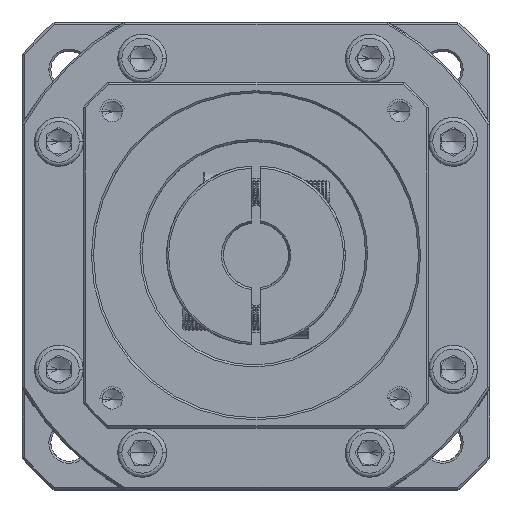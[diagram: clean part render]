
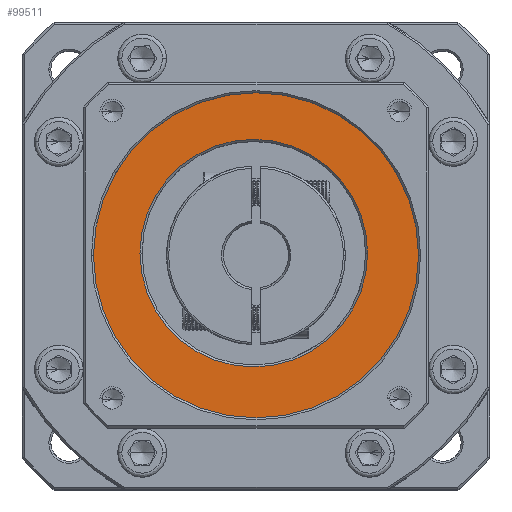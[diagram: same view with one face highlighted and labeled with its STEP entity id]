
A CAD part, top view. The second image highlights one B-rep face of the part: STEP entity #99511.
In plain terms, the highlighted planar face has unit normal (0, 0, 1).
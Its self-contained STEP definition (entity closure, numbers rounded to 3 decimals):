
#1744 = DIRECTION ( 'NONE',  ( 0., 0., 1. ) ) ;
#2572 = VERTEX_POINT ( 'NONE', #101123 ) ;
#6400 = CIRCLE ( 'NONE', #49652, 28. ) ;
#13382 = AXIS2_PLACEMENT_3D ( 'NONE', #103969, #48068, #113323 ) ;
#15622 = CARTESIAN_POINT ( 'NONE',  ( 97.945, -51.453, -19.608 ) ) ;
#20038 = AXIS2_PLACEMENT_3D ( 'NONE', #90966, #35045, #100334 ) ;
#20071 = PLANE ( 'NONE',  #117834 ) ;
#21741 = CIRCLE ( 'NONE', #20038, 28. ) ;
#22172 = EDGE_LOOP ( 'NONE', ( #103812, #54162 ) ) ;
#22831 = AXIS2_PLACEMENT_3D ( 'NONE', #82123, #26191, #91567 ) ;
#23267 = VERTEX_POINT ( 'NONE', #28051 ) ;
#26191 = DIRECTION ( 'NONE',  ( 0., 0., 1. ) ) ;
#28051 = CARTESIAN_POINT ( 'NONE',  ( 85.404, -50.919, -19.608 ) ) ;
#30779 = CIRCLE ( 'NONE', #13382, 40. ) ;
#32210 = CARTESIAN_POINT ( 'NONE',  ( 57.404, -50.919, -19.608 ) ) ;
#35045 = DIRECTION ( 'NONE',  ( 0., 0., -1. ) ) ;
#37208 = CIRCLE ( 'NONE', #22831, 40. ) ;
#41631 = DIRECTION ( 'NONE',  ( 1., 0., 0. ) ) ;
#41839 = ORIENTED_EDGE ( 'NONE', *, *, #104842, .T. ) ;
#43744 = VERTEX_POINT ( 'NONE', #15622 ) ;
#44086 = VERTEX_POINT ( 'NONE', #117149 ) ;
#45409 = EDGE_CURVE ( 'NONE', #23267, #2572, #21741, .T. ) ;
#48068 = DIRECTION ( 'NONE',  ( 0., 0., 1. ) ) ;
#49652 = AXIS2_PLACEMENT_3D ( 'NONE', #32210, #97518, #41631 ) ;
#54162 = ORIENTED_EDGE ( 'NONE', *, *, #55227, .T. ) ;
#55227 = EDGE_CURVE ( 'NONE', #2572, #23267, #6400, .T. ) ;
#57619 = CARTESIAN_POINT ( 'NONE',  ( 57.945, -51.453, -19.608 ) ) ;
#67026 = DIRECTION ( 'NONE',  ( 1., 0., 0. ) ) ;
#82123 = CARTESIAN_POINT ( 'NONE',  ( 57.945, -51.453, -19.608 ) ) ;
#90546 = EDGE_CURVE ( 'NONE', #44086, #43744, #30779, .T. ) ;
#90966 = CARTESIAN_POINT ( 'NONE',  ( 57.404, -50.919, -19.608 ) ) ;
#91567 = DIRECTION ( 'NONE',  ( 1., 0., 0. ) ) ;
#96549 = FACE_BOUND ( 'NONE', #22172, .T. ) ;
#97518 = DIRECTION ( 'NONE',  ( 0., 0., -1. ) ) ;
#99487 = FACE_OUTER_BOUND ( 'NONE', #101642, .T. ) ;
#99511 = ADVANCED_FACE ( 'NONE', ( #99487, #96549 ), #20071, .T. ) ;
#100334 = DIRECTION ( 'NONE',  ( 1., 0., 0. ) ) ;
#101123 = CARTESIAN_POINT ( 'NONE',  ( 29.404, -50.919, -19.608 ) ) ;
#101642 = EDGE_LOOP ( 'NONE', ( #41839, #104684 ) ) ;
#103812 = ORIENTED_EDGE ( 'NONE', *, *, #45409, .T. ) ;
#103969 = CARTESIAN_POINT ( 'NONE',  ( 57.945, -51.453, -19.608 ) ) ;
#104684 = ORIENTED_EDGE ( 'NONE', *, *, #90546, .T. ) ;
#104842 = EDGE_CURVE ( 'NONE', #43744, #44086, #37208, .T. ) ;
#113323 = DIRECTION ( 'NONE',  ( 1., 0., 0. ) ) ;
#117149 = CARTESIAN_POINT ( 'NONE',  ( 17.945, -51.453, -19.608 ) ) ;
#117834 = AXIS2_PLACEMENT_3D ( 'NONE', #57619, #1744, #67026 ) ;
